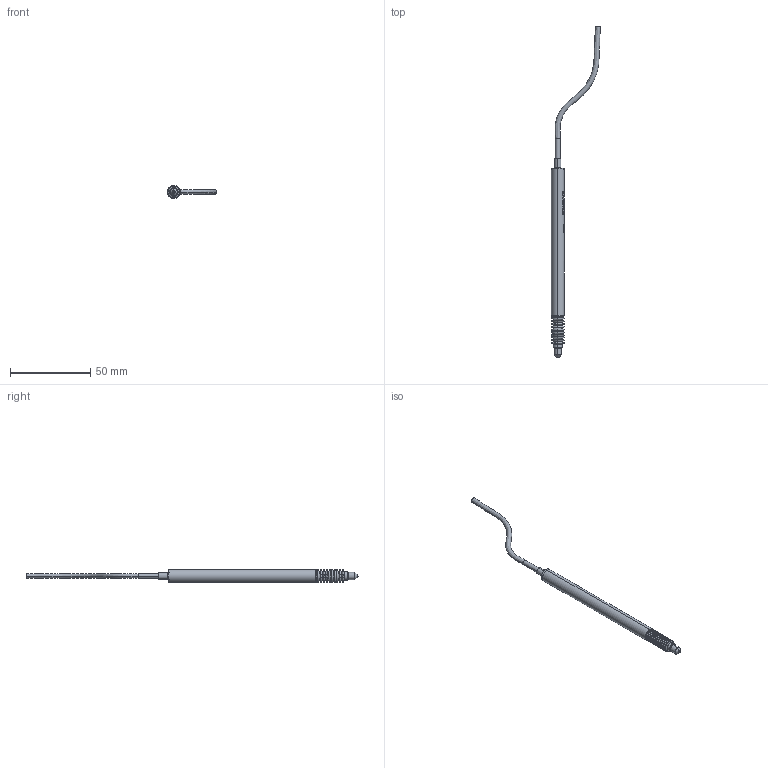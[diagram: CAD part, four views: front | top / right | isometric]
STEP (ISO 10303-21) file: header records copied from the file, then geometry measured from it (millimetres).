
FILE_DESCRIPTION((''),'2;1');
FILE_NAME('0000029120_SW0002','2012-10-10T',('11000205'),(''),'PRO/ENGINEER BY PARAMETRIC TECHNOLOGY CORPORATION, 2011180','PRO/ENGINEER BY PARAMETRIC TECHNOLOGY CORPORATION, 2011180','');
FILE_SCHEMA(('AUTOMOTIVE_DESIGN { 1 0 10303 214 1 1 1 1 }'));
Length unit declared in the file: millimetre
Products named in the file (1): 0000029120_SW0002
Bounding box: 30.59 x 206.53 x 8 mm (x, y, z)
Volume: 6116.6 mm3; surface area: 4289.9 mm2
Topology: 2 solids, 5 shells, 918 faces, 2499 edges, 1630 vertices
Faces by surface type: plane 743, cylinder 65, cone 54, torus 46, extrusion 6, sphere 2, bspline 2
Entity records: 37446 total; most frequent: CARTESIAN_POINT 9096, ORIENTED_EDGE 4990, DIRECTION 3628, EDGE_CURVE 2495, VERTEX_POINT 1630, AXIS2_PLACEMENT_3D 1272, VECTOR 1084, LINE 1078
